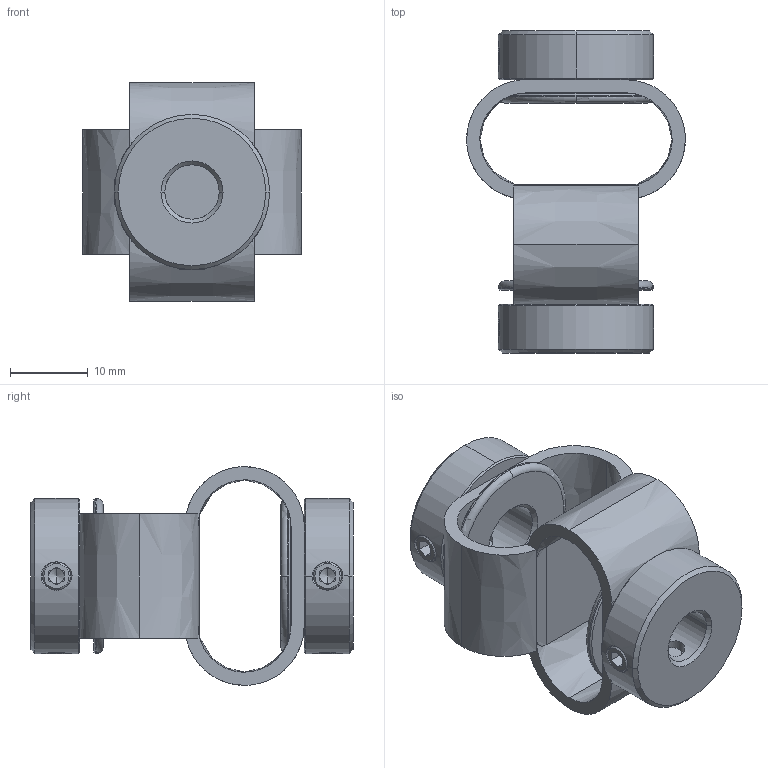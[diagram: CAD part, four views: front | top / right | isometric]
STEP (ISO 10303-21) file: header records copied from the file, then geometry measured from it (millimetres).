
FILE_DESCRIPTION (( 'STEP AP203' ), '1' );
FILE_NAME ('LS-D-D27L40-7-8.STEP', '2021-10-28T06:37:23', ( '' ), ( '' ), 'SwSTEP 2.0', 'SolidWorks 2018', '' );
FILE_SCHEMA (( 'CONFIG_CONTROL_DESIGN' ));
Length unit declared in the file: millimetre
Products named in the file (1): LS-D-D27L40-7-8
Bounding box: 28.2 x 41.54 x 28.2 mm (x, y, z)
Volume: 7033 mm3; surface area: 6680.5 mm2
Topology: 1 solids, 1 shells, 190 faces, 490 edges, 306 vertices
Faces by surface type: plane 86, cone 54, cylinder 30, bspline 16, torus 4
Entity records: 7783 total; most frequent: CARTESIAN_POINT 3225, ORIENTED_EDGE 964, DIRECTION 886, EDGE_CURVE 482, AXIS2_PLACEMENT_3D 345, VERTEX_POINT 306, EDGE_LOOP 218, VECTOR 196
